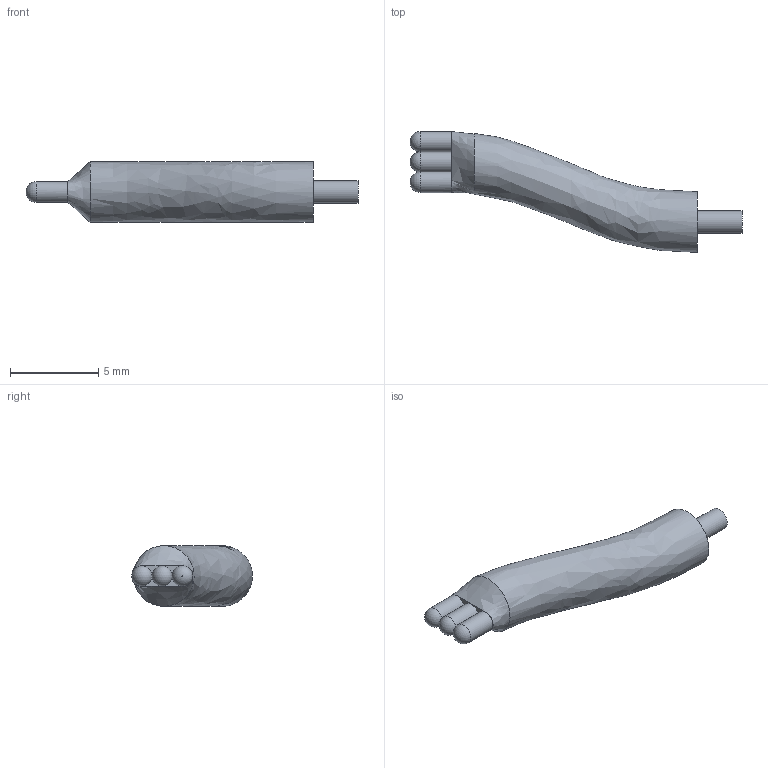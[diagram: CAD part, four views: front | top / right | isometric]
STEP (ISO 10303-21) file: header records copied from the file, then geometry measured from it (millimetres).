
FILE_DESCRIPTION(/* description */ ('Alibre Inc.'),/* implementation_level */ '2;1');
FILE_NAME(/* name */ 'export0',/* time_stamp */ '2012-08-14T17:35:15-05:00',/* author */ (''),/* organization */ (''),/* preprocessor_version */ 'ST-DEVELOPER v14',/* originating_system */ 'Alibre',/* authorisation */ '');
FILE_SCHEMA (('ALIBRE_SCHEMA','CONFIG_CONTROL_DESIGN'));
Length unit declared in the file: centimetre
Products named in the file (1): ID_1
Bounding box: 18.78 x 6.83 x 3.43 mm (x, y, z)
Volume: 134.7 mm3; surface area: 199.4 mm2
Topology: 2 solids, 2 shells, 16 faces, 39 edges, 24 vertices
Faces by surface type: plane 6, cylinder 5, bspline 2, sphere 2, torus 1
Full cylindrical faces by diameter (mm): 0.027 x1, 1.143 x1, 1.263 x1
Entity records: 2022 total; most frequent: CARTESIAN_POINT 559, CONSTRAINTPAIRUV 118, REFERENCEDEPENDENTUV 116, DIRECTION 105, REFERENCEPOINTUV 84, ORIENTED_EDGE 50, REFERENCEAXISUV 46, VECTOR 44
